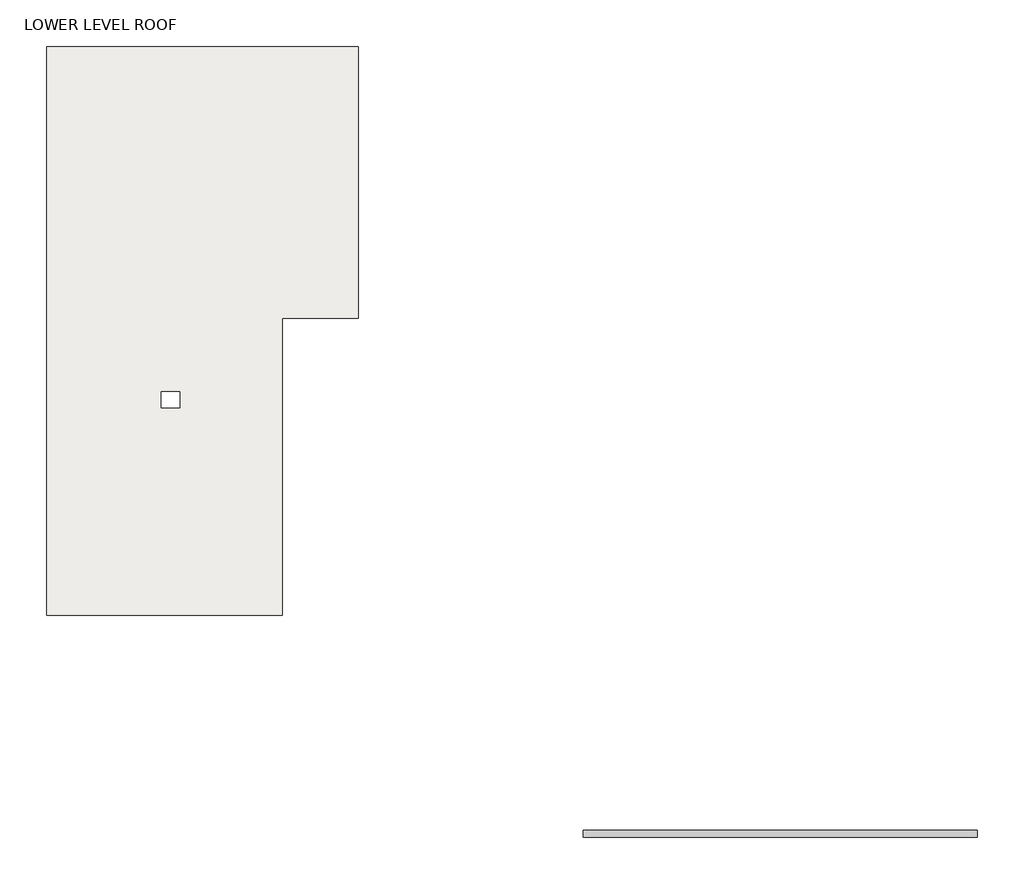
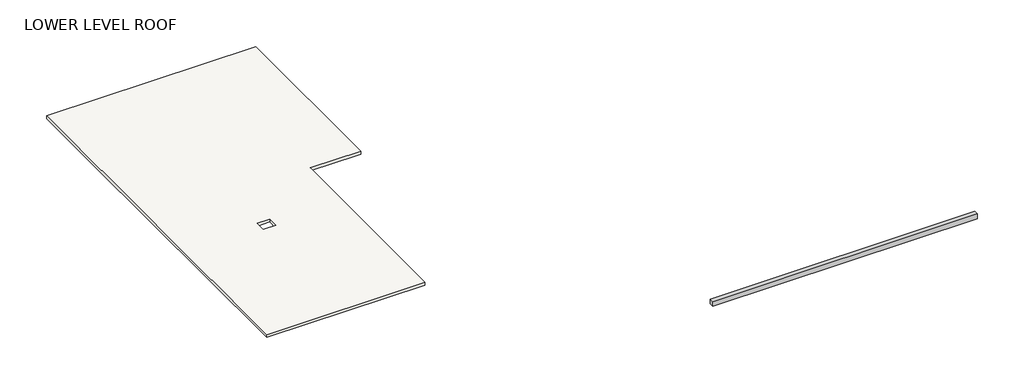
# One storey: 1 beam, 1 slab.
"""IFC4 building model written with IfcOpenShell, lengths in millimetres."""

from ifc_helpers import new_model, si_unit, frame, origin, place, context, project, spatial, polyline, outline, extrude, faceted_brep, element, save

model = new_model("IFC4")

# Units and contexts
model_context = context("Model", 3, world=origin())
ifc_project = project(units=[si_unit("LENGTHUNIT", "METRE", prefix="MILLI")], contexts=[model_context])

# Site, building, storey
site = spatial("IfcSite", under=ifc_project)
building = spatial("IfcBuilding", under=site)
storey = spatial("IfcBuildingStorey", under=building, Name="LOWER LEVEL ROOF", Elevation=34239.2)

# Beam
placement = place(None, origin())
element("IfcBeam", 1, ObjectType="Concrete-Rectangular Beam : 12 x 20", at=placement, inside=storey, context=model_context, shape_type="SweptSolid", body=[
    extrude(outline(polyline([(-14579.3497924, 33858.2), (-14884.1497924, 33858.2), (-14884.1497924, 34191.5509991), (-14579.3497924, 34178.4559697), (-14579.3497924, 33858.2)])), frame((2832.5462086, 0.0, 0.0), z_axis=(1.0, 0.0, 0.0), x_axis=(0.0, 1.0, 0.0)), (0.0, 0.0, 1.0), 17487.9),
])

# Slab
element("IfcSlab", 2, ObjectType="8\" Concrete", at=placement, inside=storey, context=model_context, shape_type="Brep", body=[
    faceted_brep([(-10507.5513201, -5025.0304995, 34036.0), (-20966.7454607, -5025.0304995, 34036.0), (-20966.7454607, -4720.2304995, 34036.0), (-20966.7454607, 14926.6695005, 34036.0), (-20966.7454607, 19543.1195005, 34036.0), (-20966.7454607, 19847.9195005, 34036.0), (-20966.7454607, 20187.6445005, 34036.0), (-7149.1454607, 20187.6445005, 34036.0), (-7149.1454607, 19847.9195005, 34036.0), (-7149.1454607, 19543.1195005, 34036.0), (-7149.1454607, 14926.6695005, 34036.0), (-7149.1454607, 14621.8695005, 34036.0), (-7149.1454607, 9795.8695005, 34036.0), (-7149.1454607, 9491.0695005, 34036.0), (-7149.1454607, 8132.1695005, 34036.0), (-7453.9454607, 8132.1695005, 34036.0), (-10507.5513201, 8132.1695005, 34036.0), (-10507.5513201, -4720.2304995, 34036.0), (-15886.7454607, 4157.0695006, 34036.0), (-15054.8954607, 4157.0695006, 34036.0), (-15054.8954607, 4866.6820005, 34036.0), (-15886.7454607, 4866.6820005, 34036.0), (-10507.5513201, -5025.0304995, 34239.2), (-10507.5513201, 8132.1695005, 34239.2), (-7149.1454607, 8132.1695005, 34239.2), (-7149.1454607, 20187.6445005, 34239.2), (-20966.7454607, 20187.6445005, 34239.2), (-20966.7454607, -5025.0304995, 34239.2), (-15886.7454607, 4157.0695006, 34239.2), (-15886.7454607, 4866.6820005, 34239.2), (-15054.8954607, 4866.6820005, 34239.2), (-15054.8954607, 4157.0695006, 34239.2)], [[[0, 1, 2, 3, 4, 5, 6, 7, 8, 9, 10, 11, 12, 13, 14, 15, 16, 17], [18, 19, 20, 21]], [[22, 23, 24, 25, 26, 27], [28, 29, 30, 31]], [[1, 0, 22, 27]], [[6, 5, 4, 3, 2, 1, 27, 26]], [[7, 6, 26, 25]], [[14, 13, 12, 11, 10, 9, 8, 7, 25, 24]], [[16, 15, 14, 24, 23]], [[0, 17, 16, 23, 22]], [[19, 18, 28, 31]], [[20, 19, 31, 30]], [[21, 20, 30, 29]], [[18, 21, 29, 28]]]),
])

save(model, "model.ifc")
